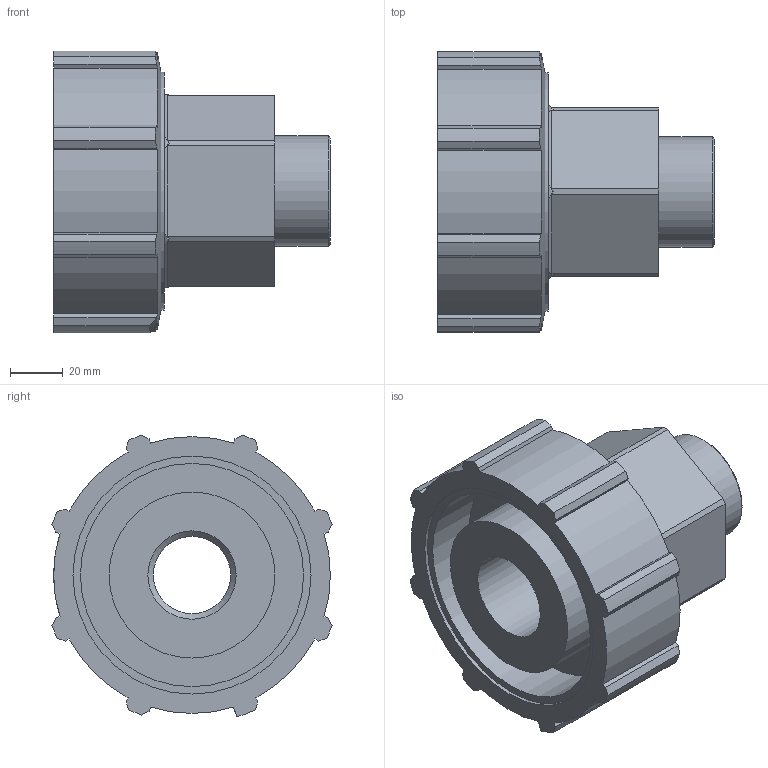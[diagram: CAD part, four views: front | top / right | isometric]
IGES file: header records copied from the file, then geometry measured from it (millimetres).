
Global section: file name: 072700063013_182700063013_72706063013.ipt; native system: Autodesk Inventor 2015; preprocessor: unknown; author: KIM; date: 20170606.172349; units: millimetre
Bounding box: 105 x 106.32 x 107.05 mm (x, y, z)
Volume: 391591.6 mm3; surface area: 72100.8 mm2
Topology: 1 solids, 1 shells, 92 faces, 258 edges, 174 vertices
Faces by surface type: plane 63, cylinder 20, revolution 6, cone 3
Full cylindrical faces by diameter (mm): 41.91 x1, 63 x1, 73.6 x1, 90.4 x1
